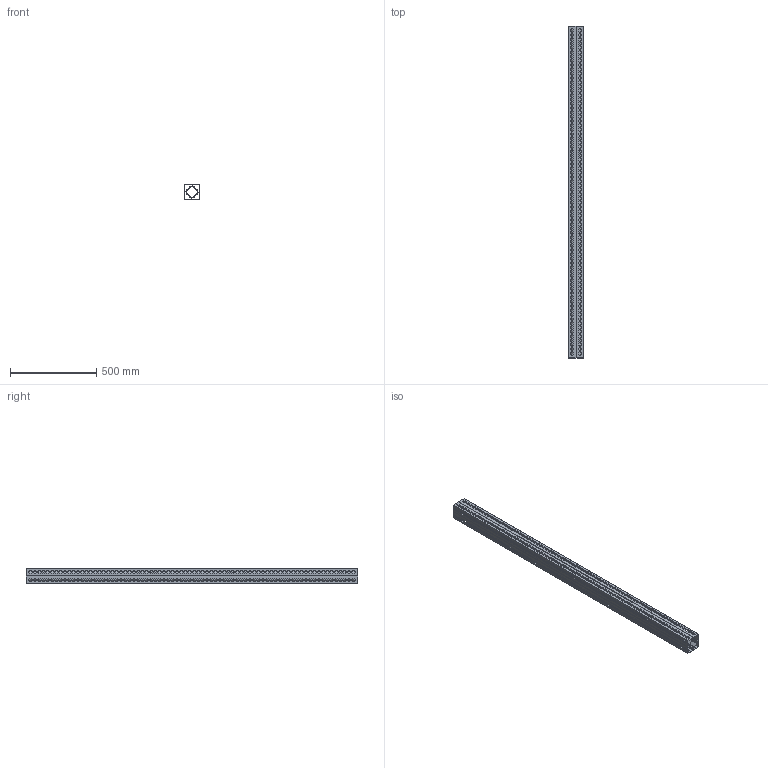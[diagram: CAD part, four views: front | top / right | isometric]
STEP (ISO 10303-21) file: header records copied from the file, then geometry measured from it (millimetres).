
FILE_DESCRIPTION (( 'STEP AP214' ), '1' );
FILE_NAME ('YKM40D-FO-ST-200 Ñòîéêà âåðòèêàëüíàÿ 2000 ìì (4 øò.êîìïë.).STEP', '2025-08-19T12:51:16', ( '' ), ( '' ), 'SwSTEP 2.0', 'SolidWorks 2023', '' );
FILE_SCHEMA (( 'AUTOMOTIVE_DESIGN' ));
Length unit declared in the file: millimetre
Products named in the file (2): YKM40D-FO-ST-200 Стойка вертикальная 2000 мм (4 шт.компл.); YKM40D-FO-ST-200 Стойка вертикальная 2000 мм
Assembly tree (4 placements, depth 2):
  YKM40D-FO-ST-200 Стойка вертикальная 2000 мм (4 шт.компл.)
    YKM40D-FO-ST-200 Стойка вертикальная 2000 мм  x4
Bounding box: 92 x 1929 x 92 mm (x, y, z)
Volume: 1764278.2 mm3; surface area: 2419609.5 mm2
Topology: 4 solids, 4 shells, 3876 faces, 11604 edges, 7736 vertices
Faces by surface type: plane 2516, cylinder 1360
Entity records: 33986 total; most frequent: CARTESIAN_POINT 5811, ORIENTED_EDGE 5802, DIRECTION 5533, EDGE_CURVE 2901, VECTOR 2221, LINE 2221, VERTEX_POINT 1934, AXIS2_PLACEMENT_3D 1656
